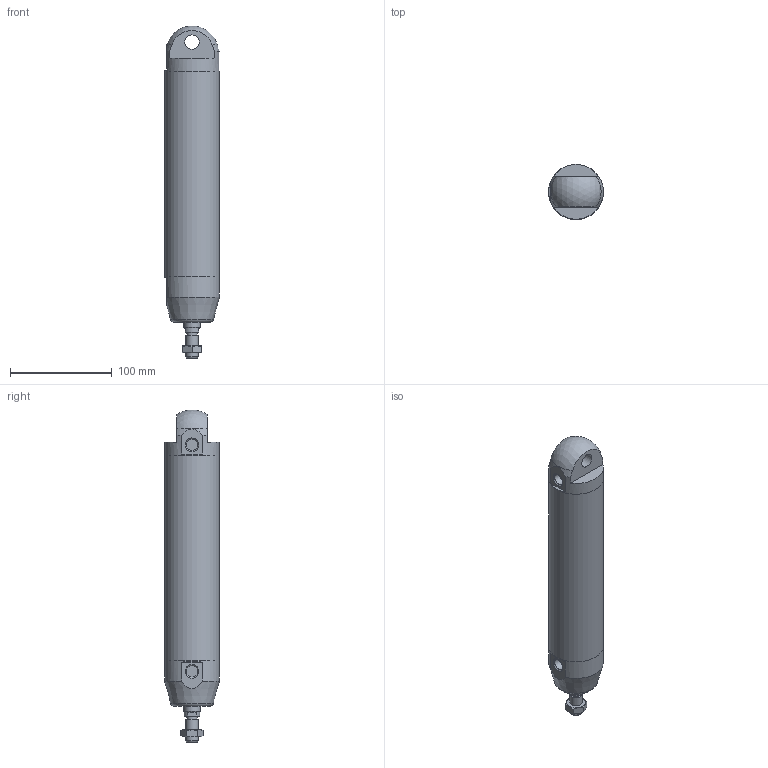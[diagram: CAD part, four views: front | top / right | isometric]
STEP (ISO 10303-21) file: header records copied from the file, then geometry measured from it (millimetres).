
FILE_DESCRIPTION(/* description */ (''),/* implementation_level */ '2;1');
FILE_NAME(/* name */ 'I:\Area Tecnica\Documenti\A-Manieri\_Inventor\12X\12X#A_###_####_#_#\12XAA_050_0160_#_#.stp',/* time_stamp */ '2015-04-22T12:06:50+02:00',/* author */ ('maniean1'),/* organization */ ('Pneumax S.p.A.'),/* preprocessor_version */ 'ST-DEVELOPER v15.2',/* originating_system */ 'Autodesk Inventor 2014',/* authorisation */ '');
FILE_SCHEMA (('AUTOMOTIVE_DESIGN { 1 0 10303 214 3 1 1 }'));
Length unit declared in the file: millimetre
Products named in the file (6): C1250_619-0160; 12X50_613; 12X50_605; S12X50_0160; 12X_50_11; 12XAA_050_0160_#_#
Bounding box: 54 x 54 x 326.83 mm (x, y, z)
Volume: 338593.5 mm3; surface area: 114000.2 mm2
Topology: 5 solids, 5 shells, 59 faces, 126 edges, 81 vertices
Faces by surface type: plane 31, cylinder 14, cone 12, torus 1, sphere 1
Full cylindrical faces by diameter (mm): 10.2 x1, 11.4 x2, 12 x2, 14 x2, 15.6 x1, 16 x1, 50 x2, 54 x3
Entity records: 1560 total; most frequent: CARTESIAN_POINT 288, DIRECTION 266, ORIENTED_EDGE 196, AXIS2_PLACEMENT_3D 120, EDGE_CURVE 98, EDGE_LOOP 94, VERTEX_POINT 76, ADVANCED_FACE 59
